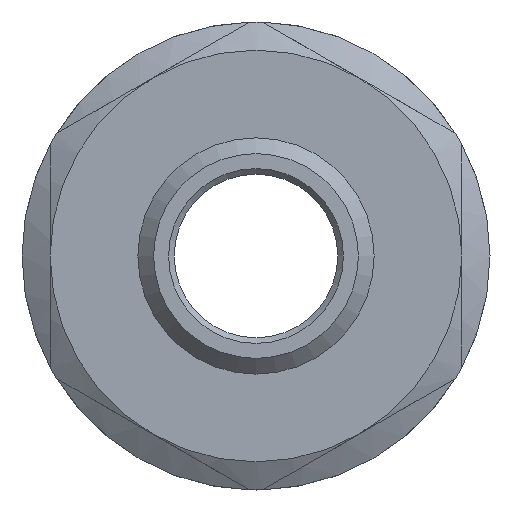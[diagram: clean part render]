
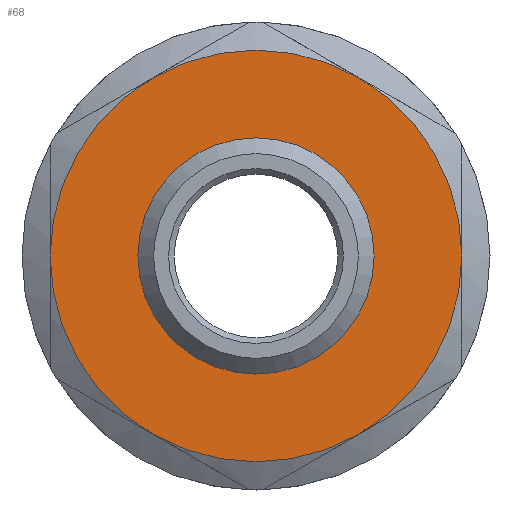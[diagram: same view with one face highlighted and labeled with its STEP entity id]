
A CAD part, front view. The second image highlights one B-rep face of the part: STEP entity #68.
In plain terms, the highlighted planar face has unit normal (0, -1, 0).
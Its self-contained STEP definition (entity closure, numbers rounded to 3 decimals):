
#68=ADVANCED_FACE('',(#256,#258),#260,.F.);
#256=FACE_BOUND('',#257,.T.);
#257=EDGE_LOOP('',(#412,#413,#414,#415,#416));
#258=FACE_BOUND('',#259,.T.);
#259=EDGE_LOOP('',(#417));
#260=PLANE('',#261);
#261=AXIS2_PLACEMENT_3D('',#262,#263,#264);
#262=CARTESIAN_POINT('',(0.,-15.,0.));
#263=DIRECTION('',(0.,1.,0.));
#264=DIRECTION('',(-1.,0.,0.));
#412=ORIENTED_EDGE('',*,*,#477,.T.);
#413=ORIENTED_EDGE('',*,*,#470,.T.);
#414=ORIENTED_EDGE('',*,*,#467,.T.);
#415=ORIENTED_EDGE('',*,*,#485,.T.);
#416=ORIENTED_EDGE('',*,*,#481,.T.);
#417=ORIENTED_EDGE('',*,*,#463,.F.);
#463=EDGE_CURVE('',#557,#557,#558,.T.);
#467=EDGE_CURVE('',#561,#563,#565,.F.);
#470=EDGE_CURVE('',#568,#561,#569,.F.);
#477=EDGE_CURVE('',#575,#568,#577,.F.);
#481=EDGE_CURVE('',#580,#575,#582,.F.);
#485=EDGE_CURVE('',#563,#580,#586,.F.);
#557=VERTEX_POINT('',#751);
#558=CIRCLE('',#752,10.478);
#561=VERTEX_POINT('',#761);
#563=VERTEX_POINT('',#786);
#565=CIRCLE('',#819,18.25);
#568=VERTEX_POINT('',#894);
#569=CIRCLE('',#895,18.25);
#575=VERTEX_POINT('',#1099);
#577=CIRCLE('',#1124,18.25);
#580=VERTEX_POINT('',#1199);
#582=CIRCLE('',#1224,18.25);
#586=CIRCLE('',#1330,18.25);
#751=CARTESIAN_POINT('',(10.478,-15.,0.));
#752=AXIS2_PLACEMENT_3D('',#753,#754,#755);
#753=CARTESIAN_POINT('',(0.,-15.,0.));
#754=DIRECTION('',(0.,-1.,0.));
#755=DIRECTION('',(1.,0.,0.));
#761=CARTESIAN_POINT('',(-9.125,-15.,15.805));
#786=CARTESIAN_POINT('',(-18.25,-15.,0.));
#819=AXIS2_PLACEMENT_3D('',#820,#821,#822);
#820=CARTESIAN_POINT('',(0.,-15.,0.));
#821=DIRECTION('',(0.,1.,0.));
#822=DIRECTION('',(-1.,0.,0.));
#894=CARTESIAN_POINT('',(18.25,-15.,0.));
#895=AXIS2_PLACEMENT_3D('',#896,#897,#898);
#896=CARTESIAN_POINT('',(0.,-15.,0.));
#897=DIRECTION('',(0.,1.,0.));
#898=DIRECTION('',(-0.5,0.,0.866));
#1099=CARTESIAN_POINT('',(9.125,-15.,-15.805));
#1124=AXIS2_PLACEMENT_3D('',#1125,#1126,#1127);
#1125=CARTESIAN_POINT('',(0.,-15.,0.));
#1126=DIRECTION('',(0.,1.,0.));
#1127=DIRECTION('',(1.,0.,0.));
#1199=CARTESIAN_POINT('',(-9.125,-15.,-15.805));
#1224=AXIS2_PLACEMENT_3D('',#1225,#1226,#1227);
#1225=CARTESIAN_POINT('',(0.,-15.,0.));
#1226=DIRECTION('',(0.,1.,0.));
#1227=DIRECTION('',(0.5,0.,-0.866));
#1330=AXIS2_PLACEMENT_3D('',#1331,#1332,#1333);
#1331=CARTESIAN_POINT('',(0.,-15.,0.));
#1332=DIRECTION('',(0.,1.,0.));
#1333=DIRECTION('',(-0.5,0.,-0.866));
